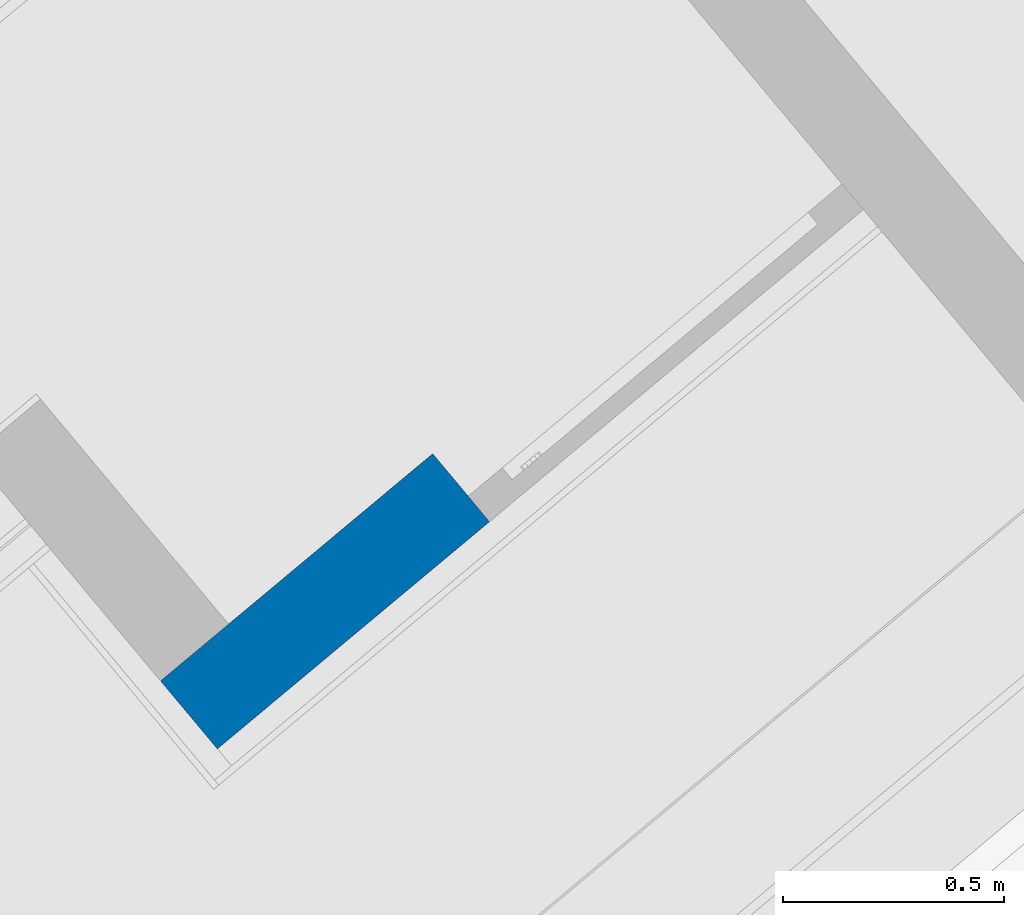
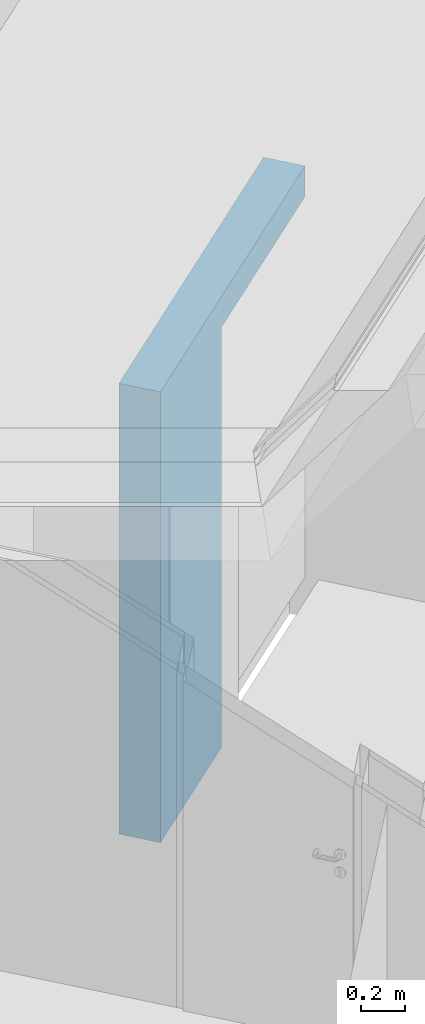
# One storey, part 1 of 50: 1 wall, 1 opening.
"""IFC4 building model written with IfcOpenShell, lengths in metres."""

from ifc_helpers import new_model, entity, si_unit, converted_unit, derived_unit, direction, frame, origin_with_axes, place, context, subcontext, project, spatial, polygons, material, type_object, element, save


model = new_model("IFC4")

# Units and contexts
model_context = context("Model", 3, precision=1e-05, world=origin_with_axes(), true_north=direction((0.0, 1.0)))
body_context = subcontext(model_context, "Body", "Model", "MODEL_VIEW")
ifc_project = project(units=[si_unit("LENGTHUNIT", "METRE"), si_unit("AREAUNIT", "SQUARE_METRE"), si_unit("VOLUMEUNIT", "CUBIC_METRE"), converted_unit("PLANEANGLEUNIT", "DEGREE", entity("IfcPlaneAngleMeasure", 0.0174532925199), si_unit("PLANEANGLEUNIT", "RADIAN"), dimensions=[0, 0, 0, 0, 0, 0, 0]), converted_unit("TIMEUNIT", "Year", entity("IfcTimeMeasure", 31556926.0), si_unit("TIMEUNIT", "SECOND"), dimensions=[0, 0, 1, 0, 0, 0, 0]), si_unit("MASSUNIT", "GRAM", prefix="KILO"), si_unit("THERMODYNAMICTEMPERATUREUNIT", "DEGREE_CELSIUS"), si_unit("LUMINOUSINTENSITYUNIT", "LUMEN"), si_unit("ENERGYUNIT", "JOULE", prefix="MEGA"), derived_unit("THERMALCONDUCTANCEUNIT", [(si_unit("POWERUNIT", "WATT"), 1), (si_unit("LENGTHUNIT", "METRE"), -1), (si_unit("THERMODYNAMICTEMPERATUREUNIT", "KELVIN"), -1)]), derived_unit("SPECIFICHEATCAPACITYUNIT", [(si_unit("ENERGYUNIT", "JOULE"), 1), (si_unit("MASSUNIT", "GRAM", prefix="KILO"), -1), (si_unit("THERMODYNAMICTEMPERATUREUNIT", "KELVIN"), -1)]), derived_unit("MASSDENSITYUNIT", [(si_unit("MASSUNIT", "GRAM", prefix="KILO"), 1), (si_unit("VOLUMEUNIT", "CUBIC_METRE"), -1)])], contexts=[model_context])

# Site, building, storey
site_placement = place(None, frame((-0.00153261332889, -0.00661245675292, 0.0), z_axis=(0.0, 0.0, 1.0), x_axis=(1.0, 0.0, 0.0)))
site = spatial("IfcSite", under=ifc_project, at=site_placement, Name="Gelände", CompositionType="ELEMENT")
building_placement = place(site_placement, origin_with_axes())
building = spatial("IfcBuilding", under=site, at=building_placement, Name="Gebäude", CompositionType="ELEMENT")
storey_placement = place(building_placement, frame((0.0, 0.0, 8.66), z_axis=(0.0, 0.0, 1.0), x_axis=(1.0, 0.0, 0.0)))
storey = spatial("IfcBuildingStorey", under=building, at=storey_placement, Name="DG2", CompositionType="ELEMENT", Elevation=8.66)

# Wall, opening
ifc_material = material(Name="Stahlbeton Wand")
wall_type = type_object("IfcWallType", Name="Stahlbeton Wand 200", PredefinedType="NOTDEFINED")
wall_placement = place(storey_placement, frame((2.38676429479, 23.2465656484, 0.0), z_axis=(0.0, 0.0, 1.0), x_axis=(-0.767613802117, -0.640912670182, 0.0)))
wall = element("IfcWall", 1, at=wall_placement, inside=storey, type_object=wall_type, material=ifc_material, Name="Wand-003", PredefinedType="NOTDEFINED", context=body_context, shape_type="Tessellation", body=[
    polygons([(1.09999999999, 0.0, 0.0), (1.09999999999, 0.0, 2.32), (0.0, 0.0, 2.32), (0.0, 0.0, 2.49), (1.90036325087, 0.0, 2.49), (1.90036325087, 0.0, 0.0), (1.09999999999, -0.075, 0.0), (1.09999999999, -0.075, 0.22), (1.09999999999, -0.075, 2.32), (0.0, -0.075, 2.32), (0.0, -0.2, 2.32), (5.83422021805e-09, -0.2, 2.49), (1.90044060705, -0.2, 2.49), (1.90044060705, -0.2, 0.0), (1.09999998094, -0.2, 0.0), (1.09999999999, -0.2, 0.22), (1.09999999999, -0.2, 2.32)], [[[1, 2, 3, 4, 5, 6]], [[2, 1, 7, 8, 9]], [[10, 3, 2, 9]], [[3, 10, 11, 12, 4]], [[5, 4, 12, 13]], [[13, 14, 6, 5]], [[7, 1, 6, 14, 15]], [[8, 7, 15, 16]], [[9, 8, 16, 17]], [[10, 9, 17, 11]], [[13, 12, 11, 17, 16, 15, 14]]], closed=True),
])
opening_placement = place(wall_placement, frame((0.54999999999, 0.0, 0.22), z_axis=(0.0, 0.0, 1.0), x_axis=(1.0, 0.0, 0.0)))
element("IfcOpeningElement", 2, at=opening_placement, cuts=wall, Name="Tür-001", context=body_context, identifier="Reference", shape_type="Tessellation", body=[
    polygons([(0.55, -0.075, -0.22), (0.55, -0.075, 2.1), (0.55, -1.0375335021, 2.1), (0.55, -1.0375335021, -0.22), (0.55, 0.8375335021, -0.22), (0.55, 0.8375335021, 2.1), (-0.55, -0.075, 2.1), (-0.55, -1.0375335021, 2.1), (-0.55, 0.8375335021, 2.1), (-0.55, -1.0375335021, -0.22), (-0.55, -0.075, -0.22), (-0.55, 0.8375335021, -0.22)], [[[1, 2, 3, 4]], [[2, 1, 5, 6]], [[7, 8, 3, 2, 6, 9]], [[8, 10, 4, 3]], [[1, 4, 10, 11, 12, 5]], [[6, 5, 12, 9]], [[7, 11, 10, 8]], [[11, 7, 9, 12]]], closed=True),
])

save(model, "model.ifc")
